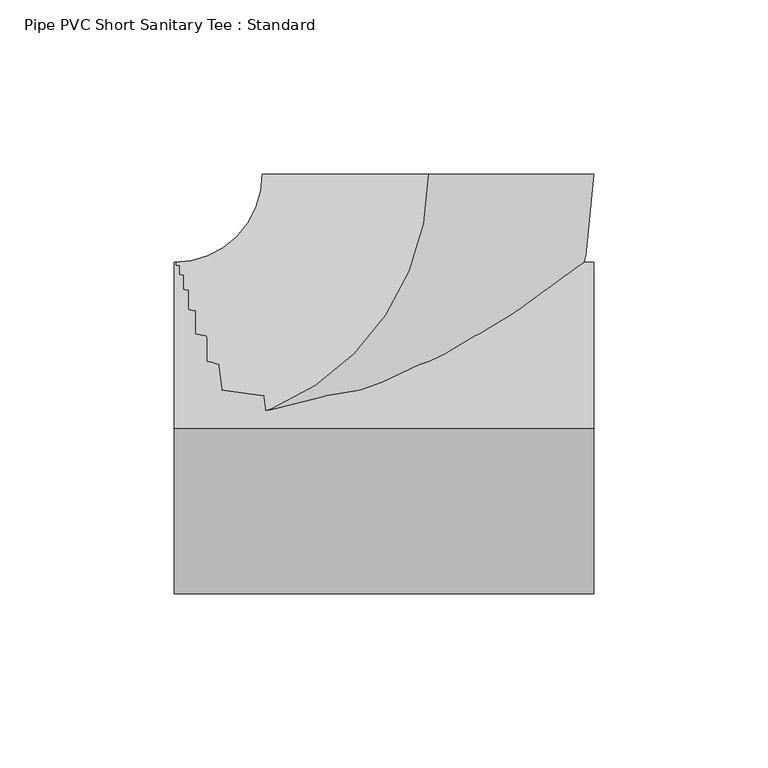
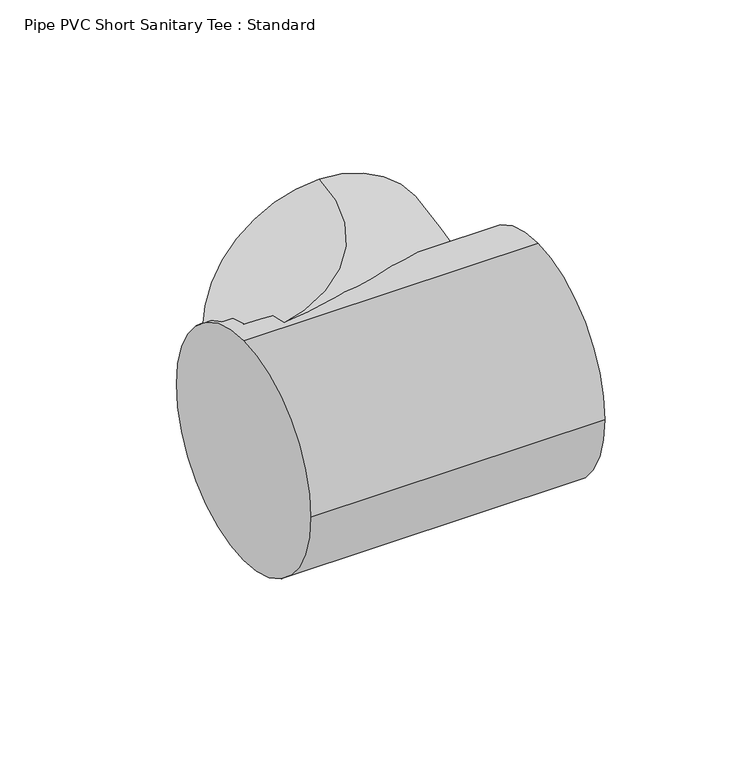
"""IFC4 building model written with IfcOpenShell, lengths in millimetres: pipe fitting geometry, Pipe PVC Short Sanitary Tee : Standard."""

from ifc_helpers import new_model, si_unit, point, frame, origin, origin_2d, place, context, project, spatial, circle_curve, ellipse_curve, trimmed, segment, composite_curve, outline, extrude, source, transform, mapped, element, save
from ifc_brep_helpers import plane_surface, revolved_surface, advanced_brep


def pipe_pvc_short_sanitary_tee_standard_09ca7ede(model_context):
    return source(origin(), model_context, "Body", "SolidModel", [
        extrude(outline(composite_curve([segment(trimmed(circle_curve(origin_2d(), 47.625), [point((0.0, 47.625))], [point((47.625, 0.0))], False, "CARTESIAN"), True, "CONTINUOUS"), segment(trimmed(circle_curve(origin_2d(), 47.625), [point((47.625, 0.0))], [point((0.0, -47.625))], False, "CARTESIAN"), True, "CONTINUOUS"), segment(trimmed(circle_curve(origin_2d(), 47.625), [point((0.0, -47.625))], [point((-47.625, 0.0))], False, "CARTESIAN"), True, "CONTINUOUS"), segment(trimmed(circle_curve(origin_2d(), 47.625), [point((-47.625, 0.0))], [point((0.0, 47.625))], False, "CARTESIAN"), True, "CONTINUOUS")], self_intersect=False)), frame((-73.0170776, 0.0, 0.0), z_axis=(1.0, 0.0, 0.0), x_axis=(0.0, 1.0, 0.0)), (0.0, 0.0, 1.0), 120.6499996),
        advanced_brep(
        [(-73.0170776, 0.0, 47.625), (-73.0170776, 47.625, 0.0), (-73.0170776, 0.0, -47.625), (-73.0170776, -47.625, 0.0), (0.007922, 73.0170771, 47.625), (47.6329217, 73.0119101, 0.0), (0.007922, 73.0170771, -47.625), (-47.6170777, 73.0222442, 0.0)],
        [
            (0, 1, circle_curve(frame((-73.0170776, 0.0, 0.0), z_axis=(-1.0, 0.0, 0.0), x_axis=(0.0, 1.0, 0.0)), 47.625)),
            (1, 2, circle_curve(frame((-73.0170776, 0.0, 0.0), z_axis=(-1.0, 0.0, 0.0), x_axis=(0.0, 1.0, 0.0)), 47.625)),
            (2, 3, circle_curve(frame((-73.0170776, 0.0, 0.0), z_axis=(-1.0, 0.0, 0.0), x_axis=(0.0, 1.0, 0.0)), 47.625)),
            (3, 0, circle_curve(frame((-73.0170776, 0.0, 0.0), z_axis=(-1.0, 0.0, 0.0), x_axis=(0.0, 1.0, 0.0)), 47.625)),
            (4, 5, circle_curve(frame((0.007922, 73.0170771, 0.0), z_axis=(0.00010849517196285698, 0.9999999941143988, 0.0), x_axis=(-0.9999999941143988, 0.00010849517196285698, 0.0)), 47.625)),
            (5, 6, circle_curve(frame((0.007922, 73.0170771, 0.0), z_axis=(0.00010849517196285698, 0.9999999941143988, 0.0), x_axis=(-0.9999999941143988, 0.00010849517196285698, 0.0)), 47.625)),
            (6, 7, circle_curve(frame((0.007922, 73.0170771, 0.0), z_axis=(0.00010849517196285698, 0.9999999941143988, 0.0), x_axis=(-0.9999999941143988, 0.00010849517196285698, 0.0)), 47.625)),
            (7, 4, circle_curve(frame((0.007922, 73.0170771, 0.0), z_axis=(0.00010849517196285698, 0.9999999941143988, 0.0), x_axis=(-0.9999999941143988, 0.00010849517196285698, 0.0)), 47.625)),
            (7, 1, circle_curve(frame((-73.0170776, 73.025, 0.0), z_axis=(0.0, 0.0, -1.0), x_axis=(0.0, -1.0, 0.0)), 25.4)),
            (0, 4, circle_curve(frame((-73.0170776, 73.025, 47.625), z_axis=(0.0, 0.0, 1.0), x_axis=(0.0, -1.0, 0.0)), 73.025)),
            (6, 2, circle_curve(frame((-73.0170776, 73.025, -47.625), z_axis=(0.0, 0.0, -1.0), x_axis=(0.0, -1.0, 0.0)), 73.025)),
            (5, 3, circle_curve(frame((-73.0170776, 73.025, 0.0), z_axis=(0.0, 0.0, -1.0), x_axis=(0.0, -1.0, 0.0)), 120.65)),
        ],
        [
            plane_surface(frame((-73.0170776, 0.0, 0.0), z_axis=(-1.0, 0.0, 0.0), x_axis=(0.0, 0.0, 1.0))),
            plane_surface(frame((0.007922, 73.0170771, 0.0), z_axis=(0.00010849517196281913, 0.9999999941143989, 0.0), x_axis=(0.0, 0.0, 1.0))),
            revolved_surface(trimmed(ellipse_curve(frame((-73.0170776, 0.0, 0.0), z_axis=(-1.0, 0.0, 0.0), x_axis=(0.0, 1.0, 0.0)), 47.625, 47.625), [point((-73.0170776, 0.0, 47.625))], [point((-73.0170776, 47.625, 0.0))], True, "CARTESIAN"), (-73.0170776, 73.025, 0.0), (0.0, 0.0, 1.0)),
            revolved_surface(trimmed(ellipse_curve(frame((-73.0170776, 0.0, 0.0), z_axis=(-1.0, 0.0, 0.0), x_axis=(0.0, 1.0, 0.0)), 47.625, 47.625), [point((-73.0170776, 47.625, 0.0))], [point((-73.0170776, 0.0, -47.625))], True, "CARTESIAN"), (-73.0170776, 73.025, 0.0), (0.0, 0.0, 1.0)),
            revolved_surface(trimmed(ellipse_curve(frame((-73.0170776, 0.0, 0.0), z_axis=(-1.0, 0.0, 0.0), x_axis=(0.0, 1.0, 0.0)), 47.625, 47.625), [point((-73.0170776, 0.0, -47.625))], [point((-73.0170776, -47.625, 0.0))], True, "CARTESIAN"), (-73.0170776, 73.025, 0.0), (0.0, 0.0, 1.0)),
            revolved_surface(trimmed(ellipse_curve(frame((-73.0170776, 0.0, 0.0), z_axis=(-1.0, 0.0, 0.0), x_axis=(0.0, 1.0, 0.0)), 47.625, 47.625), [point((-73.0170776, -47.625, 0.0))], [point((-73.0170776, 0.0, 47.625))], True, "CARTESIAN"), (-73.0170776, 73.025, 0.0), (0.0, 0.0, 1.0)),
        ],
        [
            (0, [[1, 2, 3, 4]]),
            (1, [[5, 6, 7, 8]]),
            (2, [[9, -1, 10, -8]]),
            (3, [[11, -2, -9, -7]]),
            (4, [[12, -3, -11, -6]]),
            (5, [[-10, -4, -12, -5]]),
        ],
    ),
        advanced_brep(
        [(-73.0170776, 0.0, 47.625), (-73.0170776, 47.625, 0.0), (-73.0170776, 0.0, -47.625), (-73.0170776, -47.625, 0.0), (0.007922, 73.0170771, 47.625), (47.6329217, 73.0119101, 0.0), (0.007922, 73.0170771, -47.625), (-47.6170777, 73.0222442, 0.0)],
        [
            (0, 1, circle_curve(frame((-73.0170776, 0.0, 0.0), z_axis=(-1.0, 0.0, 0.0), x_axis=(0.0, 1.0, 0.0)), 47.625)),
            (1, 2, circle_curve(frame((-73.0170776, 0.0, 0.0), z_axis=(-1.0, 0.0, 0.0), x_axis=(0.0, 1.0, 0.0)), 47.625)),
            (2, 3, circle_curve(frame((-73.0170776, 0.0, 0.0), z_axis=(-1.0, 0.0, 0.0), x_axis=(0.0, 1.0, 0.0)), 47.625)),
            (3, 0, circle_curve(frame((-73.0170776, 0.0, 0.0), z_axis=(-1.0, 0.0, 0.0), x_axis=(0.0, 1.0, 0.0)), 47.625)),
            (4, 5, circle_curve(frame((0.007922, 73.0170771, 0.0), z_axis=(0.00010849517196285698, 0.9999999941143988, 0.0), x_axis=(-0.9999999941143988, 0.00010849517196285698, 0.0)), 47.625)),
            (5, 6, circle_curve(frame((0.007922, 73.0170771, 0.0), z_axis=(0.00010849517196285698, 0.9999999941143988, 0.0), x_axis=(-0.9999999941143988, 0.00010849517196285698, 0.0)), 47.625)),
            (6, 7, circle_curve(frame((0.007922, 73.0170771, 0.0), z_axis=(0.00010849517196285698, 0.9999999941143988, 0.0), x_axis=(-0.9999999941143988, 0.00010849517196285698, 0.0)), 47.625)),
            (7, 4, circle_curve(frame((0.007922, 73.0170771, 0.0), z_axis=(0.00010849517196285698, 0.9999999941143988, 0.0), x_axis=(-0.9999999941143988, 0.00010849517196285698, 0.0)), 47.625)),
            (7, 1, circle_curve(frame((-73.0170776, 73.025, 0.0), z_axis=(0.0, 0.0, -1.0), x_axis=(0.0, -1.0, 0.0)), 25.4)),
            (0, 4, circle_curve(frame((-73.0170776, 73.025, 47.625), z_axis=(0.0, 0.0, 1.0), x_axis=(0.0, -1.0, 0.0)), 73.025)),
            (6, 2, circle_curve(frame((-73.0170776, 73.025, -47.625), z_axis=(0.0, 0.0, -1.0), x_axis=(0.0, -1.0, 0.0)), 73.025)),
            (5, 3, circle_curve(frame((-73.0170776, 73.025, 0.0), z_axis=(0.0, 0.0, -1.0), x_axis=(0.0, -1.0, 0.0)), 120.65)),
        ],
        [
            plane_surface(frame((-73.0170776, 0.0, 0.0), z_axis=(-1.0, 0.0, 0.0), x_axis=(0.0, 0.0, 1.0))),
            plane_surface(frame((0.007922, 73.0170771, 0.0), z_axis=(0.00010849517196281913, 0.9999999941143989, 0.0), x_axis=(0.0, 0.0, 1.0))),
            revolved_surface(trimmed(ellipse_curve(frame((-73.0170776, 0.0, 0.0), z_axis=(-1.0, 0.0, 0.0), x_axis=(0.0, 1.0, 0.0)), 47.625, 47.625), [point((-73.0170776, 0.0, 47.625))], [point((-73.0170776, 47.625, 0.0))], True, "CARTESIAN"), (-73.0170776, 73.025, 0.0), (0.0, 0.0, 1.0)),
            revolved_surface(trimmed(ellipse_curve(frame((-73.0170776, 0.0, 0.0), z_axis=(-1.0, 0.0, 0.0), x_axis=(0.0, 1.0, 0.0)), 47.625, 47.625), [point((-73.0170776, 47.625, 0.0))], [point((-73.0170776, 0.0, -47.625))], True, "CARTESIAN"), (-73.0170776, 73.025, 0.0), (0.0, 0.0, 1.0)),
            revolved_surface(trimmed(ellipse_curve(frame((-73.0170776, 0.0, 0.0), z_axis=(-1.0, 0.0, 0.0), x_axis=(0.0, 1.0, 0.0)), 47.625, 47.625), [point((-73.0170776, 0.0, -47.625))], [point((-73.0170776, -47.625, 0.0))], True, "CARTESIAN"), (-73.0170776, 73.025, 0.0), (0.0, 0.0, 1.0)),
            revolved_surface(trimmed(ellipse_curve(frame((-73.0170776, 0.0, 0.0), z_axis=(-1.0, 0.0, 0.0), x_axis=(0.0, 1.0, 0.0)), 47.625, 47.625), [point((-73.0170776, -47.625, 0.0))], [point((-73.0170776, 0.0, 47.625))], True, "CARTESIAN"), (-73.0170776, 73.025, 0.0), (0.0, 0.0, 1.0)),
        ],
        [
            (0, [[1, 2, 3, 4]]),
            (1, [[5, 6, 7, 8]]),
            (2, [[9, -1, 10, -8]]),
            (3, [[11, -2, -9, -7]]),
            (4, [[12, -3, -11, -6]]),
            (5, [[-10, -4, -12, -5]]),
        ],
    ),
        extrude(outline(composite_curve([segment(trimmed(circle_curve(origin_2d(), 47.625), [point((0.0, 47.625))], [point((47.625, 0.0))], False, "CARTESIAN"), True, "CONTINUOUS"), segment(trimmed(circle_curve(origin_2d(), 47.625), [point((47.625, 0.0))], [point((0.0, -47.625))], False, "CARTESIAN"), True, "CONTINUOUS"), segment(trimmed(circle_curve(origin_2d(), 47.625), [point((0.0, -47.625))], [point((-47.625, 0.0))], False, "CARTESIAN"), True, "CONTINUOUS"), segment(trimmed(circle_curve(origin_2d(), 47.625), [point((-47.625, 0.0))], [point((0.0, 47.625))], False, "CARTESIAN"), True, "CONTINUOUS")], self_intersect=False)), frame((-73.0170776, 0.0, 0.0), z_axis=(1.0, 0.0, 0.0), x_axis=(0.0, 1.0, 0.0)), (0.0, 0.0, 1.0), 120.6499996),
    ])


if __name__ == "__main__":
    model = new_model("IFC4")
    model_context = context("Model", 3, world=origin())
    ifc_project = project(units=[si_unit("LENGTHUNIT", "METRE", prefix="MILLI")], contexts=[model_context])
    site = spatial("IfcSite", under=ifc_project)
    building = spatial("IfcBuilding", under=site)
    placement = place(None, origin())
    pipe_pvc_short_sanitary_tee_standard_shape = pipe_pvc_short_sanitary_tee_standard_09ca7ede(model_context)
    element("IfcPipeFitting", 1, ObjectType="Pipe PVC Short Sanitary Tee : Standard", at=placement, inside=building, context=model_context, shape_type="MappedRepresentation", body=[
        mapped(pipe_pvc_short_sanitary_tee_standard_shape, transform((0.0, 0.0, 0.0), x_axis=(1.0, 0.0, 0.0), y_axis=(0.0, 1.0, 0.0), z_axis=(0.0, 0.0, 1.0))),
    ])
    save(model, "model.ifc")
